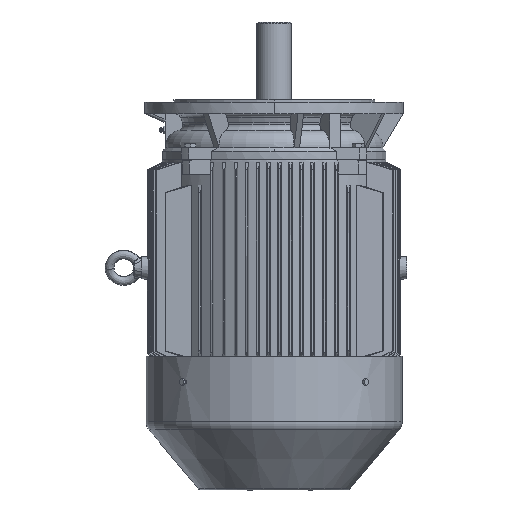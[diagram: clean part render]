
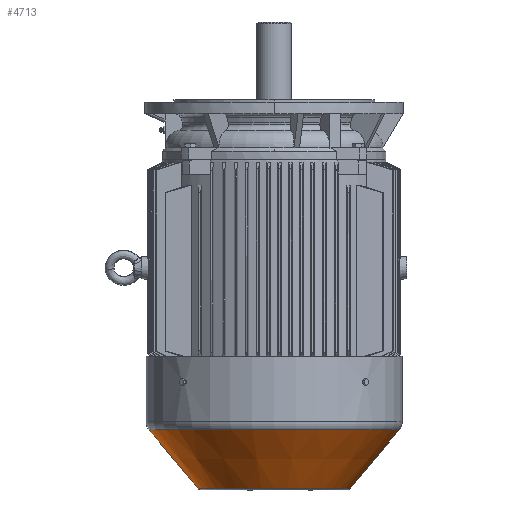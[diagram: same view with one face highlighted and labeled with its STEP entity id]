
A CAD part, front view. The second image highlights one B-rep face of the part: STEP entity #4713.
In plain terms, the highlighted conical face has half-angle 40 degrees and reference radius 132.173 mm.
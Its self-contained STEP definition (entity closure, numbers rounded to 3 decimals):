
#4166 = FACE_OUTER_BOUND ( 'NONE', #13883, .T. ) ;
#4170 = CONICAL_SURFACE ( 'NONE', #36119, 132.173, 0.698 ) ;
#4713 = ADVANCED_FACE ( 'NONE', ( #4166 ), #4170, .T. ) ;
#13883 = EDGE_LOOP ( 'NONE', ( #94355, #94356, #94357, #94358 ) ) ;
#14581 = CARTESIAN_POINT ( 'NONE',  ( 128.301, 0., 0. ) ) ;
#14583 = DIRECTION ( 'NONE',  ( -1., 0., 0. ) ) ;
#14586 = DIRECTION ( 'NONE',  ( 0., -1., 0. ) ) ;
#14589 = DIRECTION ( 'NONE',  ( -0.766, 0.643, 0. ) ) ;
#14624 = CARTESIAN_POINT ( 'NONE',  ( 230.41, 132.173, 0. ) ) ;
#14627 = CARTESIAN_POINT ( 'NONE',  ( 230.41, 0., 0. ) ) ;
#14629 = DIRECTION ( 'NONE',  ( -1., 0., 0. ) ) ;
#14632 = DIRECTION ( 'NONE',  ( 0., -1., 0. ) ) ;
#14637 = CARTESIAN_POINT ( 'NONE',  ( 230.41, -132.173, 0. ) ) ;
#14640 = DIRECTION ( 'NONE',  ( -0.766, -0.643, 0. ) ) ;
#28061 = EDGE_CURVE ( 'NONE', #88832, #88798, #41299, .T. ) ;
#28065 = EDGE_CURVE ( 'NONE', #88779, #88612, #41304, .T. ) ;
#28066 = EDGE_CURVE ( 'NONE', #88612, #88798, #41306, .T. ) ;
#28067 = EDGE_CURVE ( 'NONE', #88779, #88832, #41310, .T. ) ;
#36119 = AXIS2_PLACEMENT_3D ( 'NONE', #56253, #56250, #56249 ) ;
#41299 = CIRCLE ( 'NONE', #92651, 217.853 ) ;
#41304 = CIRCLE ( 'NONE', #92655, 132.173 ) ;
#41306 = LINE ( 'NONE', #14624, #41312 ) ;
#41310 = LINE ( 'NONE', #14637, #41316 ) ;
#41312 = VECTOR ( 'NONE', #14589, 1000. ) ;
#41316 = VECTOR ( 'NONE', #14640, 1000. ) ;
#56249 = DIRECTION ( 'NONE',  ( 0., -1., 0. ) ) ;
#56250 = DIRECTION ( 'NONE',  ( -1., 0., 0. ) ) ;
#56253 = CARTESIAN_POINT ( 'NONE',  ( 230.41, 0., 0. ) ) ;
#75550 = CARTESIAN_POINT ( 'NONE',  ( 230.41, 132.173, 0. ) ) ;
#76238 = CARTESIAN_POINT ( 'NONE',  ( 230.41, -132.173, 0. ) ) ;
#76295 = CARTESIAN_POINT ( 'NONE',  ( 128.301, 217.853, 0. ) ) ;
#76455 = CARTESIAN_POINT ( 'NONE',  ( 128.301, -217.853, 0. ) ) ;
#88612 = VERTEX_POINT ( 'NONE', #75550 ) ;
#88779 = VERTEX_POINT ( 'NONE', #76238 ) ;
#88798 = VERTEX_POINT ( 'NONE', #76295 ) ;
#88832 = VERTEX_POINT ( 'NONE', #76455 ) ;
#92651 = AXIS2_PLACEMENT_3D ( 'NONE', #14581, #14583, #14586 ) ;
#92655 = AXIS2_PLACEMENT_3D ( 'NONE', #14627, #14629, #14632 ) ;
#94355 = ORIENTED_EDGE ( 'NONE', *, *, #28065, .T. ) ;
#94356 = ORIENTED_EDGE ( 'NONE', *, *, #28066, .T. ) ;
#94357 = ORIENTED_EDGE ( 'NONE', *, *, #28061, .F. ) ;
#94358 = ORIENTED_EDGE ( 'NONE', *, *, #28067, .F. ) ;
